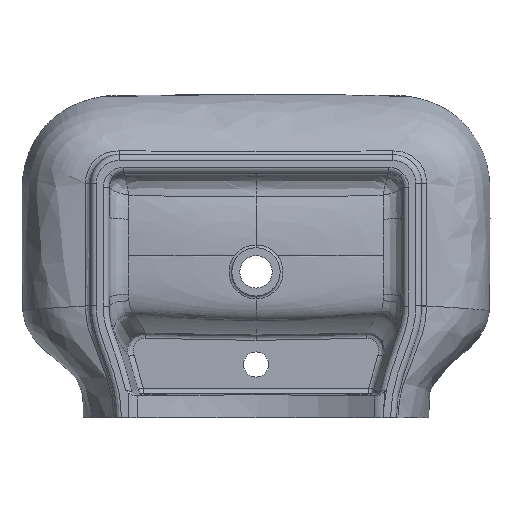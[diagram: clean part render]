
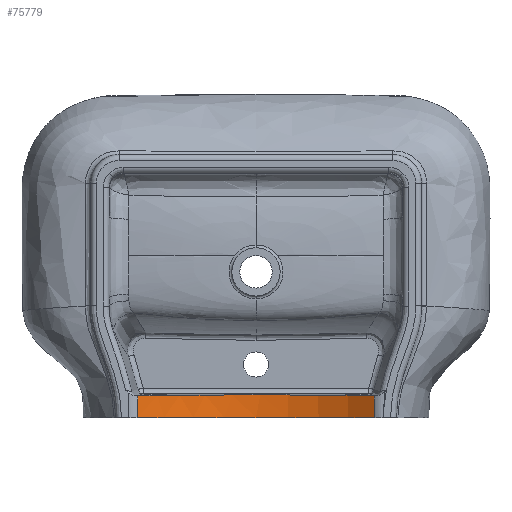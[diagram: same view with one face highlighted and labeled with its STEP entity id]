
A CAD part, front view. The second image highlights one B-rep face of the part: STEP entity #75779.
In plain terms, the highlighted cylindrical face has radius 267.285 mm (diameter 534.57 mm), a partial arc.
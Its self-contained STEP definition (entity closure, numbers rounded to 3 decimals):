
#50 = DIRECTION ( 'NONE',  ( -1., 0., 0. ) ) ;
#680 = ORIENTED_EDGE ( 'NONE', *, *, #74223, .F. ) ;
#4659 = ORIENTED_EDGE ( 'NONE', *, *, #32426, .T. ) ;
#5212 = DIRECTION ( 'NONE',  ( 0., 0., 1. ) ) ;
#9657 = LINE ( 'NONE', #15365, #60287 ) ;
#11432 = DIRECTION ( 'NONE',  ( 0., 0., -1. ) ) ;
#12228 = FACE_OUTER_BOUND ( 'NONE', #61558, .T. ) ;
#15262 = VERTEX_POINT ( 'NONE', #50106 ) ;
#15365 = CARTESIAN_POINT ( 'NONE',  ( -164.71, -131.751, -195. ) ) ;
#16067 = VERTEX_POINT ( 'NONE', #43613 ) ;
#17126 = CYLINDRICAL_SURFACE ( 'NONE', #19077, 267.285 ) ;
#17399 = CARTESIAN_POINT ( 'NONE',  ( 164.71, -131.751, -195. ) ) ;
#19077 = AXIS2_PLACEMENT_3D ( 'NONE', #67025, #11432, #50 ) ;
#20884 = DIRECTION ( 'NONE',  ( 0., 0., 1. ) ) ;
#22818 = CARTESIAN_POINT ( 'NONE',  ( 164.71, -131.751, -194.895 ) ) ;
#22974 = AXIS2_PLACEMENT_3D ( 'NONE', #71207, #20884, #46847 ) ;
#24197 = VECTOR ( 'NONE', #5212, 1000. ) ;
#24992 = EDGE_CURVE ( 'NONE', #16067, #15262, #9657, .T. ) ;
#32426 = EDGE_CURVE ( 'NONE', #35168, #16067, #54702, .T. ) ;
#32804 = DIRECTION ( 'NONE',  ( 0., 0., -1. ) ) ;
#33479 = CARTESIAN_POINT ( 'NONE',  ( 63.962, -52.921, -192.94 ) ) ;
#35168 = VERTEX_POINT ( 'NONE', #22818 ) ;
#35917 = CIRCLE ( 'NONE', #22974, 267.285 ) ;
#40789 = CARTESIAN_POINT ( 'NONE',  ( 164.71, -131.751, -194.895 ) ) ;
#43613 = CARTESIAN_POINT ( 'NONE',  ( -164.71, -131.751, -194.895 ) ) ;
#46847 = DIRECTION ( 'NONE',  ( 1., 0., 0. ) ) ;
#47711 = ORIENTED_EDGE ( 'NONE', *, *, #24992, .T. ) ;
#50106 = CARTESIAN_POINT ( 'NONE',  ( -164.71, -131.751, -225. ) ) ;
#50985 = VERTEX_POINT ( 'NONE', #68693 ) ;
#53497 = EDGE_CURVE ( 'NONE', #50985, #35168, #61217, .T. ) ;
#54702 =( BOUNDED_CURVE ( )  B_SPLINE_CURVE ( 3, ( #40789, #33479, #76937, #65545 ),
 .UNSPECIFIED., .F., .F. ) 
 B_SPLINE_CURVE_WITH_KNOTS ( ( 4, 4 ),
 ( 2.478, 3.806 ),
 .UNSPECIFIED. ) 
 CURVE ( )  GEOMETRIC_REPRESENTATION_ITEM ( )  RATIONAL_B_SPLINE_CURVE ( ( 1., 0.858, 0.858, 1. ) ) 
 REPRESENTATION_ITEM ( '' )  );
#60287 = VECTOR ( 'NONE', #32804, 1000. ) ;
#61217 = LINE ( 'NONE', #17399, #24197 ) ;
#61558 = EDGE_LOOP ( 'NONE', ( #680, #69805, #4659, #47711 ) ) ;
#65545 = CARTESIAN_POINT ( 'NONE',  ( -164.71, -131.751, -194.895 ) ) ;
#67025 = CARTESIAN_POINT ( 'NONE',  ( 0., -342.255, -195. ) ) ;
#68693 = CARTESIAN_POINT ( 'NONE',  ( 164.71, -131.751, -225. ) ) ;
#69805 = ORIENTED_EDGE ( 'NONE', *, *, #53497, .T. ) ;
#71207 = CARTESIAN_POINT ( 'NONE',  ( 0., -342.255, -225. ) ) ;
#74223 = EDGE_CURVE ( 'NONE', #50985, #15262, #35917, .T. ) ;
#75779 = ADVANCED_FACE ( 'NONE', ( #12228 ), #17126, .F. ) ;
#76937 = CARTESIAN_POINT ( 'NONE',  ( -63.962, -52.921, -192.94 ) ) ;
